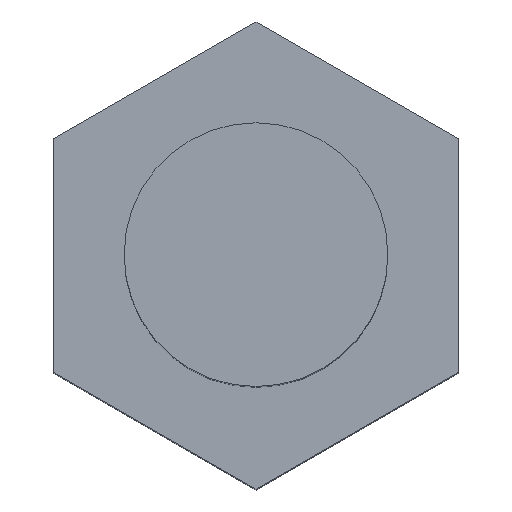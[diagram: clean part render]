
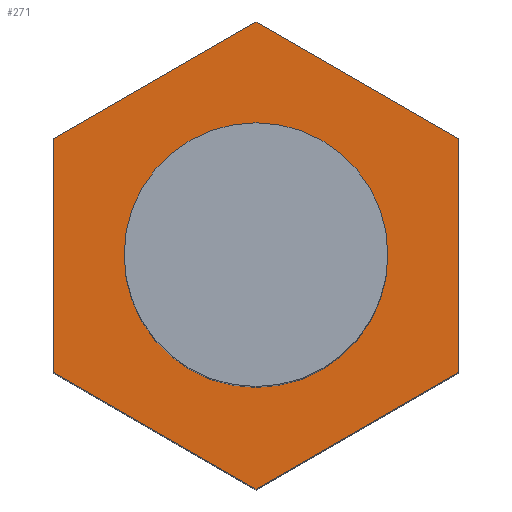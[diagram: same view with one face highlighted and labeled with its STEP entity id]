
A CAD part, top view. The second image highlights one B-rep face of the part: STEP entity #271.
In plain terms, the highlighted planar face has unit normal (0, 0, 1).
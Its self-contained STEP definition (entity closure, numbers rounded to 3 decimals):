
#1 = VERTEX_POINT ( 'NONE', #141 ) ;
#2 = EDGE_CURVE ( 'NONE', #120, #1, #225, .T. ) ;
#3 = CARTESIAN_POINT ( 'NONE',  ( -2.3, 1.328, 5.95 ) ) ;
#14 = ORIENTED_EDGE ( 'NONE', *, *, #348, .F. ) ;
#31 = VERTEX_POINT ( 'NONE', #412 ) ;
#52 = ORIENTED_EDGE ( 'NONE', *, *, #446, .T. ) ;
#67 = DIRECTION ( 'NONE',  ( 1., 0., 0. ) ) ;
#78 = DIRECTION ( 'NONE',  ( 0.866, 0.5, 0. ) ) ;
#83 = VECTOR ( 'NONE', #461, 1000. ) ;
#90 = CARTESIAN_POINT ( 'NONE',  ( 0., -2.656, 5.95 ) ) ;
#92 = DIRECTION ( 'NONE',  ( -0.866, -0.5, 0. ) ) ;
#116 = DIRECTION ( 'NONE',  ( 0., 0., 1. ) ) ;
#120 = VERTEX_POINT ( 'NONE', #175 ) ;
#123 = VERTEX_POINT ( 'NONE', #469 ) ;
#135 = EDGE_CURVE ( 'NONE', #31, #368, #472, .T. ) ;
#139 = VERTEX_POINT ( 'NONE', #466 ) ;
#141 = CARTESIAN_POINT ( 'NONE',  ( 0., 2.656, 5.95 ) ) ;
#142 = AXIS2_PLACEMENT_3D ( 'NONE', #480, #272, #416 ) ;
#143 = EDGE_LOOP ( 'NONE', ( #288, #14 ) ) ;
#153 = CARTESIAN_POINT ( 'NONE',  ( 0., 0., 5.95 ) ) ;
#155 = VECTOR ( 'NONE', #363, 1000. ) ;
#158 = ORIENTED_EDGE ( 'NONE', *, *, #2, .T. ) ;
#161 = EDGE_CURVE ( 'NONE', #1, #343, #176, .T. ) ;
#166 = CARTESIAN_POINT ( 'NONE',  ( 0., 2.656, 5.95 ) ) ;
#169 = DIRECTION ( 'NONE',  ( 1., 0., 0. ) ) ;
#173 = PLANE ( 'NONE',  #440 ) ;
#175 = CARTESIAN_POINT ( 'NONE',  ( 2.3, 1.328, 5.95 ) ) ;
#176 = LINE ( 'NONE', #166, #290 ) ;
#192 = DIRECTION ( 'NONE',  ( 0., 0., 1. ) ) ;
#225 = LINE ( 'NONE', #228, #256 ) ;
#228 = CARTESIAN_POINT ( 'NONE',  ( 2.3, 1.328, 5.95 ) ) ;
#230 = DIRECTION ( 'NONE',  ( -0.866, 0.5, 0. ) ) ;
#242 = EDGE_CURVE ( 'NONE', #343, #31, #457, .T. ) ;
#248 = LINE ( 'NONE', #90, #264 ) ;
#256 = VECTOR ( 'NONE', #230, 1000. ) ;
#264 = VECTOR ( 'NONE', #78, 1000. ) ;
#271 = ADVANCED_FACE ( 'NONE', ( #427, #284 ), #173, .T. ) ;
#272 = DIRECTION ( 'NONE',  ( 0., 0., 1. ) ) ;
#273 = CARTESIAN_POINT ( 'NONE',  ( 2.3, -1.328, 5.95 ) ) ;
#276 = CARTESIAN_POINT ( 'NONE',  ( 2.3, -1.328, 5.95 ) ) ;
#279 = CARTESIAN_POINT ( 'NONE',  ( -2.3, 1.328, 5.95 ) ) ;
#284 = FACE_OUTER_BOUND ( 'NONE', #337, .T. ) ;
#288 = ORIENTED_EDGE ( 'NONE', *, *, #312, .F. ) ;
#290 = VECTOR ( 'NONE', #92, 1000. ) ;
#312 = EDGE_CURVE ( 'NONE', #123, #139, #379, .T. ) ;
#326 = CARTESIAN_POINT ( 'NONE',  ( 0., 0., 5.95 ) ) ;
#330 = ORIENTED_EDGE ( 'NONE', *, *, #242, .T. ) ;
#336 = AXIS2_PLACEMENT_3D ( 'NONE', #153, #116, #169 ) ;
#337 = EDGE_LOOP ( 'NONE', ( #407, #380, #52, #158, #471, #330 ) ) ;
#343 = VERTEX_POINT ( 'NONE', #3 ) ;
#348 = EDGE_CURVE ( 'NONE', #139, #123, #414, .T. ) ;
#363 = DIRECTION ( 'NONE',  ( 0.866, -0.5, 0. ) ) ;
#364 = VERTEX_POINT ( 'NONE', #273 ) ;
#368 = VERTEX_POINT ( 'NONE', #465 ) ;
#379 = CIRCLE ( 'NONE', #142, 1.5 ) ;
#380 = ORIENTED_EDGE ( 'NONE', *, *, #390, .T. ) ;
#390 = EDGE_CURVE ( 'NONE', #368, #364, #248, .T. ) ;
#403 = VECTOR ( 'NONE', #425, 1000. ) ;
#407 = ORIENTED_EDGE ( 'NONE', *, *, #135, .T. ) ;
#412 = CARTESIAN_POINT ( 'NONE',  ( -2.3, -1.328, 5.95 ) ) ;
#414 = CIRCLE ( 'NONE', #336, 1.5 ) ;
#416 = DIRECTION ( 'NONE',  ( 1., 0., 0. ) ) ;
#425 = DIRECTION ( 'NONE',  ( 0., 1., 0. ) ) ;
#427 = FACE_BOUND ( 'NONE', #143, .T. ) ;
#434 = CARTESIAN_POINT ( 'NONE',  ( -2.3, -1.328, 5.95 ) ) ;
#440 = AXIS2_PLACEMENT_3D ( 'NONE', #326, #192, #67 ) ;
#446 = EDGE_CURVE ( 'NONE', #364, #120, #454, .T. ) ;
#454 = LINE ( 'NONE', #276, #403 ) ;
#457 = LINE ( 'NONE', #279, #83 ) ;
#461 = DIRECTION ( 'NONE',  ( 0., -1., 0. ) ) ;
#465 = CARTESIAN_POINT ( 'NONE',  ( 0., -2.656, 5.95 ) ) ;
#466 = CARTESIAN_POINT ( 'NONE',  ( 1.5, 0., 5.95 ) ) ;
#469 = CARTESIAN_POINT ( 'NONE',  ( -1.5, 0., 5.95 ) ) ;
#471 = ORIENTED_EDGE ( 'NONE', *, *, #161, .T. ) ;
#472 = LINE ( 'NONE', #434, #155 ) ;
#480 = CARTESIAN_POINT ( 'NONE',  ( 0., 0., 5.95 ) ) ;
